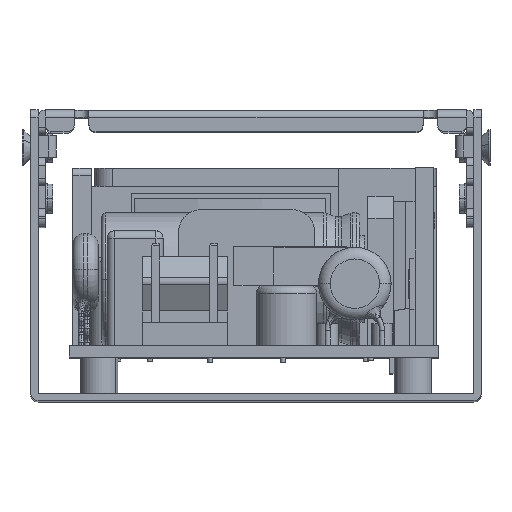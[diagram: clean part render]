
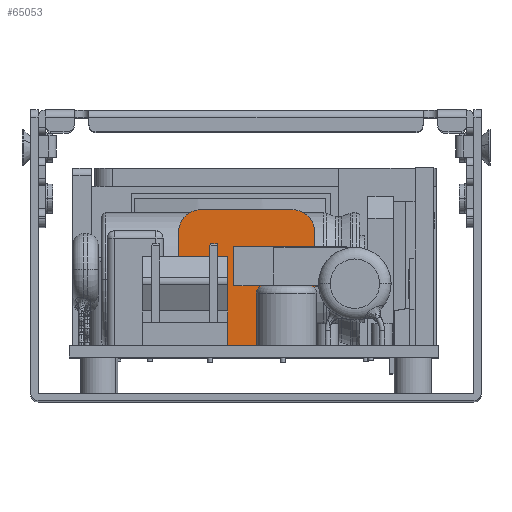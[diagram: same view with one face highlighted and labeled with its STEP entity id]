
A CAD part, top view. The second image highlights one B-rep face of the part: STEP entity #65053.
In plain terms, the highlighted planar face has unit normal (0, 0, 1) as drawn and (-1, 0, 0) by its records, which use the part's own axes.
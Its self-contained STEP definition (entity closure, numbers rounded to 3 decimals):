
#1143 = LINE ( 'NONE', #1208, #1207 ) ;
#1204 = CARTESIAN_POINT ( 'NONE',  ( -8.65, -9.35, -6.35 ) ) ;
#1205 = CARTESIAN_POINT ( 'NONE',  ( -8.65, -9.35, 6.35 ) ) ;
#1206 = DIRECTION ( 'NONE',  ( 0., 0., -1. ) ) ;
#1207 = VECTOR ( 'NONE', #1206, 1000. ) ;
#1208 = CARTESIAN_POINT ( 'NONE',  ( -8.65, -9.35, 9.35 ) ) ;
#1211 = CARTESIAN_POINT ( 'NONE',  ( -8.65, 4.25, 9.35 ) ) ;
#1249 = DIRECTION ( 'NONE',  ( 0., -1., 0. ) ) ;
#1250 = VECTOR ( 'NONE', #1249, 1000. ) ;
#1251 = CARTESIAN_POINT ( 'NONE',  ( -8.65, 9.35, 9.35 ) ) ;
#1252 = LINE ( 'NONE', #1251, #1250 ) ;
#1254 = CARTESIAN_POINT ( 'NONE',  ( -8.65, 6.35, 9.35 ) ) ;
#37389 = EDGE_CURVE ( 'NONE', #37392, #37396, #1143, .T. ) ;
#37392 = VERTEX_POINT ( 'NONE', #1205 ) ;
#37396 = VERTEX_POINT ( 'NONE', #1204 ) ;
#37479 = VERTEX_POINT ( 'NONE', #1211 ) ;
#37501 = VERTEX_POINT ( 'NONE', #1254 ) ;
#37506 = EDGE_CURVE ( 'NONE', #37501, #37479, #1252, .T. ) ;
#38524 = CARTESIAN_POINT ( 'NONE',  ( -8.65, 9.35, 6.35 ) ) ;
#38543 = DIRECTION ( 'NONE',  ( 0., 0., -1. ) ) ;
#38544 = DIRECTION ( 'NONE',  ( -1., 0., 0. ) ) ;
#38545 = CARTESIAN_POINT ( 'NONE',  ( -8.65, 6.35, 6.35 ) ) ;
#38547 = AXIS2_PLACEMENT_3D ( 'NONE', #38545, #38544, #38543 ) ;
#38548 = CIRCLE ( 'NONE', #38547, 3. ) ;
#38699 = FACE_OUTER_BOUND ( 'NONE', #65056, .T. ) ;
#38776 = CARTESIAN_POINT ( 'NONE',  ( -8.65, -1.15, 9.35 ) ) ;
#38796 = DIRECTION ( 'NONE',  ( 0., -1., 0. ) ) ;
#38799 = VECTOR ( 'NONE', #38796, 1000. ) ;
#38802 = CARTESIAN_POINT ( 'NONE',  ( -8.65, 9.35, 9.35 ) ) ;
#38805 = LINE ( 'NONE', #38802, #38799 ) ;
#38831 = DIRECTION ( 'NONE',  ( 0., 0., -1. ) ) ;
#38834 = DIRECTION ( 'NONE',  ( 1., 0., 0. ) ) ;
#38836 = CARTESIAN_POINT ( 'NONE',  ( -8.65, -9.35, 9.35 ) ) ;
#38838 = AXIS2_PLACEMENT_3D ( 'NONE', #38836, #38834, #38831 ) ;
#38850 = PLANE ( 'NONE',  #38838 ) ;
#39001 = CARTESIAN_POINT ( 'NONE',  ( -8.65, -6.35, 9.35 ) ) ;
#40017 = CARTESIAN_POINT ( 'NONE',  ( -8.65, 6.35, -9.35 ) ) ;
#40066 = DIRECTION ( 'NONE',  ( 0., 0., -1. ) ) ;
#40069 = DIRECTION ( 'NONE',  ( -1., 0., 0. ) ) ;
#40071 = CARTESIAN_POINT ( 'NONE',  ( -8.65, 6.35, -6.35 ) ) ;
#40073 = AXIS2_PLACEMENT_3D ( 'NONE', #40071, #40069, #40066 ) ;
#40076 = CIRCLE ( 'NONE', #40073, 3. ) ;
#40105 = CARTESIAN_POINT ( 'NONE',  ( -8.65, 9.35, -6.35 ) ) ;
#40109 = DIRECTION ( 'NONE',  ( 0., 0., 1. ) ) ;
#40111 = VECTOR ( 'NONE', #40109, 1000. ) ;
#40114 = CARTESIAN_POINT ( 'NONE',  ( -8.65, 9.35, 9.35 ) ) ;
#40116 = LINE ( 'NONE', #40114, #40111 ) ;
#40140 = DIRECTION ( 'NONE',  ( 0., 0., -1. ) ) ;
#40142 = DIRECTION ( 'NONE',  ( -1., 0., 0. ) ) ;
#40144 = CARTESIAN_POINT ( 'NONE',  ( -8.65, -6.35, 6.35 ) ) ;
#40147 = AXIS2_PLACEMENT_3D ( 'NONE', #40144, #40142, #40140 ) ;
#40148 = CIRCLE ( 'NONE', #40147, 3. ) ;
#40184 = DIRECTION ( 'NONE',  ( 0., 0., -1. ) ) ;
#40187 = DIRECTION ( 'NONE',  ( -1., 0., 0. ) ) ;
#40188 = CARTESIAN_POINT ( 'NONE',  ( -8.65, -6.35, -6.35 ) ) ;
#40191 = AXIS2_PLACEMENT_3D ( 'NONE', #40188, #40187, #40184 ) ;
#40194 = CIRCLE ( 'NONE', #40191, 3. ) ;
#40223 = CARTESIAN_POINT ( 'NONE',  ( -8.65, -6.35, -9.35 ) ) ;
#40240 = DIRECTION ( 'NONE',  ( 0., 1., 0. ) ) ;
#40243 = VECTOR ( 'NONE', #40240, 1000. ) ;
#40245 = CARTESIAN_POINT ( 'NONE',  ( -8.65, 9.35, -9.35 ) ) ;
#40246 = LINE ( 'NONE', #40245, #40243 ) ;
#40390 = DIRECTION ( 'NONE',  ( 0., 1., 0. ) ) ;
#40391 = VECTOR ( 'NONE', #40390, 1000. ) ;
#40395 = CARTESIAN_POINT ( 'NONE',  ( -8.65, -1.15, -1.75 ) ) ;
#40396 = LINE ( 'NONE', #40395, #40391 ) ;
#40426 = CARTESIAN_POINT ( 'NONE',  ( -8.65, -1.15, -1.75 ) ) ;
#40450 = DIRECTION ( 'NONE',  ( 0., 0., -1. ) ) ;
#40453 = VECTOR ( 'NONE', #40450, 1000. ) ;
#40455 = CARTESIAN_POINT ( 'NONE',  ( -8.65, -1.15, -1.75 ) ) ;
#40457 = LINE ( 'NONE', #40455, #40453 ) ;
#40587 = DIRECTION ( 'NONE',  ( 0., 0., -1. ) ) ;
#40588 = VECTOR ( 'NONE', #40587, 1000. ) ;
#40590 = CARTESIAN_POINT ( 'NONE',  ( -8.65, 4.25, 9.35 ) ) ;
#40592 = LINE ( 'NONE', #40590, #40588 ) ;
#40607 = CARTESIAN_POINT ( 'NONE',  ( -8.65, 4.25, -1.75 ) ) ;
#65014 = ORIENTED_EDGE ( 'NONE', *, *, #37506, .F. ) ;
#65017 = ORIENTED_EDGE ( 'NONE', *, *, #65019, .T. ) ;
#65019 = EDGE_CURVE ( 'NONE', #37501, #65022, #38548, .T. ) ;
#65022 = VERTEX_POINT ( 'NONE', #38524 ) ;
#65024 = ORIENTED_EDGE ( 'NONE', *, *, #65187, .F. ) ;
#65053 = ADVANCED_FACE ( 'NONE', ( #38699 ), #38850, .F. ) ;
#65056 = EDGE_LOOP ( 'NONE', ( #65058, #65231, #65240, #65249, #65014, #65017, #65024, #65193, #65199, #65207, #65213, #65216 ) ) ;
#65058 = ORIENTED_EDGE ( 'NONE', *, *, #65060, .F. ) ;
#65060 = EDGE_CURVE ( 'NONE', #65064, #65067, #38805, .T. ) ;
#65064 = VERTEX_POINT ( 'NONE', #38776 ) ;
#65067 = VERTEX_POINT ( 'NONE', #39001 ) ;
#65187 = EDGE_CURVE ( 'NONE', #65190, #65022, #40116, .T. ) ;
#65190 = VERTEX_POINT ( 'NONE', #40105 ) ;
#65193 = ORIENTED_EDGE ( 'NONE', *, *, #65194, .T. ) ;
#65194 = EDGE_CURVE ( 'NONE', #65190, #65197, #40076, .T. ) ;
#65197 = VERTEX_POINT ( 'NONE', #40017 ) ;
#65199 = ORIENTED_EDGE ( 'NONE', *, *, #65201, .F. ) ;
#65201 = EDGE_CURVE ( 'NONE', #65204, #65197, #40246, .T. ) ;
#65204 = VERTEX_POINT ( 'NONE', #40223 ) ;
#65207 = ORIENTED_EDGE ( 'NONE', *, *, #65210, .T. ) ;
#65210 = EDGE_CURVE ( 'NONE', #65204, #37396, #40194, .T. ) ;
#65213 = ORIENTED_EDGE ( 'NONE', *, *, #37389, .F. ) ;
#65216 = ORIENTED_EDGE ( 'NONE', *, *, #65219, .T. ) ;
#65219 = EDGE_CURVE ( 'NONE', #37392, #65067, #40148, .T. ) ;
#65231 = ORIENTED_EDGE ( 'NONE', *, *, #65234, .T. ) ;
#65234 = EDGE_CURVE ( 'NONE', #65064, #65237, #40457, .T. ) ;
#65237 = VERTEX_POINT ( 'NONE', #40426 ) ;
#65240 = ORIENTED_EDGE ( 'NONE', *, *, #65243, .T. ) ;
#65243 = EDGE_CURVE ( 'NONE', #65237, #65246, #40396, .T. ) ;
#65246 = VERTEX_POINT ( 'NONE', #40607 ) ;
#65249 = ORIENTED_EDGE ( 'NONE', *, *, #65252, .F. ) ;
#65252 = EDGE_CURVE ( 'NONE', #37479, #65246, #40592, .T. ) ;
